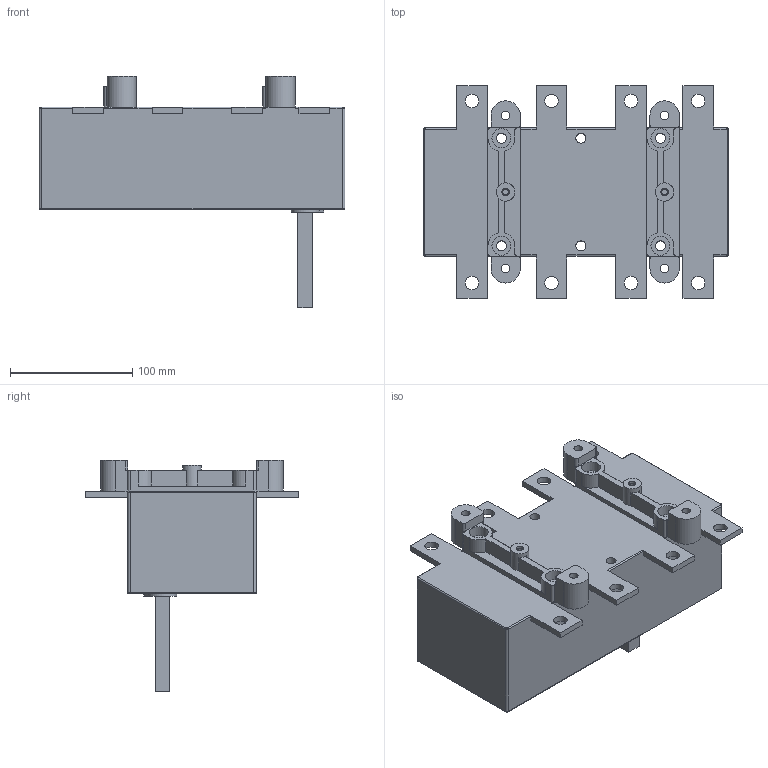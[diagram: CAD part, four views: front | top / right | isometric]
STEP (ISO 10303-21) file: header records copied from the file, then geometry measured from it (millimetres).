
FILE_DESCRIPTION(/* description */ (''),/* implementation_level */ '2;1');
FILE_NAME(/* name */ 'RA630 P3 N.stp',/* time_stamp */ '2021-08-19T07:44:28+02:00',/* author */ (''),/* organization */ (''),/* preprocessor_version */ 'ST-DEVELOPER v18.1',/* originating_system */ 'SIEMENS PLM Software NX 1965',/* authorisation */ '');
FILE_SCHEMA (('AUTOMOTIVE_DESIGN { 1 0 10303 214 3 1 1 1 }'));
Length unit declared in the file: millimetre
Products named in the file (1): RA630 P3 N_stp
Bounding box: 250 x 174 x 189 mm (x, y, z)
Volume: 2301070.7 mm3; surface area: 169412.3 mm2
Topology: 1 solids, 1 shells, 202 faces, 548 edges, 362 vertices
Faces by surface type: plane 104, cylinder 90, torus 5, bspline 3
Full cylindrical faces by diameter (mm): 4.8 x2, 6.2 x2, 7 x4, 8.2 x6, 11 x8, 14 x4, 15 x2, 15.5 x4
Entity records: 6285 total; most frequent: CARTESIAN_POINT 1124, DIRECTION 1096, ORIENTED_EDGE 1008, EDGE_CURVE 504, AXIS2_PLACEMENT_3D 394, VERTEX_POINT 350, LINE 308, VECTOR 308
